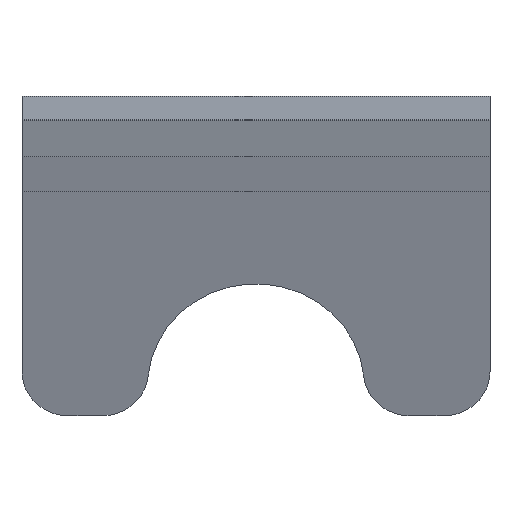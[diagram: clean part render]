
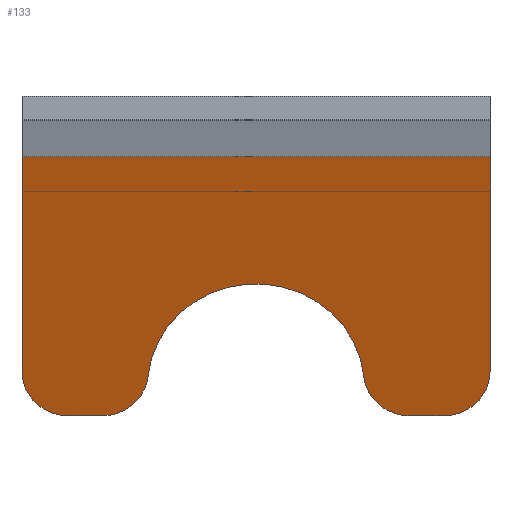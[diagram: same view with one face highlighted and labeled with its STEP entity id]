
A CAD part, front view. The second image highlights one B-rep face of the part: STEP entity #133.
In plain terms, the highlighted planar face has unit normal (0, -0.943, -0.334).
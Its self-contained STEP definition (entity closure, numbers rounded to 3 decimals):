
#17 = CARTESIAN_POINT ( 'NONE',  ( 3.398, -5.59, -7.637 ) ) ;
#25 = CIRCLE ( 'NONE', #42, 2. ) ;
#31 = FACE_OUTER_BOUND ( 'NONE', #569, .T. ) ;
#38 = CARTESIAN_POINT ( 'NONE',  ( 9.995, -5.375, -8.243 ) ) ;
#40 = CARTESIAN_POINT ( 'NONE',  ( 0., -5.59, -7.637 ) ) ;
#42 = AXIS2_PLACEMENT_3D ( 'NONE', #17, #481, #88 ) ;
#44 = CARTESIAN_POINT ( 'NONE',  ( 5.389, -5.525, -7.82 ) ) ;
#68 = LINE ( 'NONE', #542, #585 ) ;
#78 = ORIENTED_EDGE ( 'NONE', *, *, #682, .T. ) ;
#80 = VECTOR ( 'NONE', #732, 1000. ) ;
#88 = DIRECTION ( 'NONE',  ( 0., 0.334, -0.942 ) ) ;
#109 = DIRECTION ( 'NONE',  ( 0., 0.334, -0.942 ) ) ;
#124 = VERTEX_POINT ( 'NONE', #768 ) ;
#129 = VECTOR ( 'NONE', #373, 1000. ) ;
#132 = VERTEX_POINT ( 'NONE', #231 ) ;
#133 = ADVANCED_FACE ( 'NONE', ( #31 ), #706, .T. ) ;
#145 = CARTESIAN_POINT ( 'NONE',  ( 20., -5.59, -7.637 ) ) ;
#156 = ORIENTED_EDGE ( 'NONE', *, *, #863, .F. ) ;
#192 = CARTESIAN_POINT ( 'NONE',  ( 20., -8.848, 1.548 ) ) ;
#196 = VERTEX_POINT ( 'NONE', #40 ) ;
#197 = CARTESIAN_POINT ( 'NONE',  ( 20., -8.848, 1.548 ) ) ;
#200 = LINE ( 'NONE', #213, #537 ) ;
#210 = CARTESIAN_POINT ( 'NONE',  ( 18., -5.59, -7.637 ) ) ;
#213 = CARTESIAN_POINT ( 'NONE',  ( 20., -8.848, 1.548 ) ) ;
#231 = CARTESIAN_POINT ( 'NONE',  ( 2., -4.922, -9.522 ) ) ;
#247 = VERTEX_POINT ( 'NONE', #44 ) ;
#253 = VERTEX_POINT ( 'NONE', #440 ) ;
#256 = EDGE_CURVE ( 'NONE', #196, #253, #300, .T. ) ;
#259 = DIRECTION ( 'NONE',  ( -1., 0., 0. ) ) ;
#264 = CIRCLE ( 'NONE', #600, 2. ) ;
#266 = CARTESIAN_POINT ( 'NONE',  ( 16.592, -5.59, -7.637 ) ) ;
#269 = CARTESIAN_POINT ( 'NONE',  ( 2., -5.59, -7.637 ) ) ;
#280 = DIRECTION ( 'NONE',  ( 0., 0.334, -0.942 ) ) ;
#300 = LINE ( 'NONE', #851, #129 ) ;
#311 = ORIENTED_EDGE ( 'NONE', *, *, #727, .T. ) ;
#335 = DIRECTION ( 'NONE',  ( 0., 0.334, -0.942 ) ) ;
#338 = DIRECTION ( 'NONE',  ( 0., 0.334, -0.942 ) ) ;
#342 = DIRECTION ( 'NONE',  ( -1., 0., 0. ) ) ;
#366 = DIRECTION ( 'NONE',  ( 0., -0.942, -0.334 ) ) ;
#370 = AXIS2_PLACEMENT_3D ( 'NONE', #266, #744, #335 ) ;
#371 = ORIENTED_EDGE ( 'NONE', *, *, #421, .F. ) ;
#373 = DIRECTION ( 'NONE',  ( 0., -0.334, 0.942 ) ) ;
#390 = LINE ( 'NONE', #192, #595 ) ;
#393 = CARTESIAN_POINT ( 'NONE',  ( 3.398, -4.922, -9.522 ) ) ;
#411 = DIRECTION ( 'NONE',  ( 0., -0.334, 0.942 ) ) ;
#420 = ORIENTED_EDGE ( 'NONE', *, *, #256, .F. ) ;
#421 = EDGE_CURVE ( 'NONE', #124, #583, #778, .T. ) ;
#429 = VERTEX_POINT ( 'NONE', #393 ) ;
#440 = CARTESIAN_POINT ( 'NONE',  ( 0., -8.848, 1.548 ) ) ;
#443 = AXIS2_PLACEMENT_3D ( 'NONE', #38, #495, #109 ) ;
#454 = EDGE_CURVE ( 'NONE', #504, #253, #390, .T. ) ;
#458 = AXIS2_PLACEMENT_3D ( 'NONE', #269, #746, #338 ) ;
#474 = ORIENTED_EDGE ( 'NONE', *, *, #664, .T. ) ;
#481 = DIRECTION ( 'NONE',  ( 0., -0.942, -0.334 ) ) ;
#495 = DIRECTION ( 'NONE',  ( 0., -0.942, -0.334 ) ) ;
#504 = VERTEX_POINT ( 'NONE', #197 ) ;
#511 = ORIENTED_EDGE ( 'NONE', *, *, #454, .T. ) ;
#520 = EDGE_CURVE ( 'NONE', #672, #583, #687, .T. ) ;
#537 = VECTOR ( 'NONE', #411, 1000. ) ;
#542 = CARTESIAN_POINT ( 'NONE',  ( 20., -4.922, -9.522 ) ) ;
#544 = EDGE_CURVE ( 'NONE', #196, #132, #850, .T. ) ;
#569 = EDGE_LOOP ( 'NONE', ( #420, #814, #648, #311, #156, #710, #371, #474, #78, #511 ) ) ;
#583 = VERTEX_POINT ( 'NONE', #615 ) ;
#585 = VECTOR ( 'NONE', #342, 1000. ) ;
#595 = VECTOR ( 'NONE', #259, 1000. ) ;
#600 = AXIS2_PLACEMENT_3D ( 'NONE', #210, #683, #280 ) ;
#615 = CARTESIAN_POINT ( 'NONE',  ( 16.592, -4.922, -9.522 ) ) ;
#625 = VERTEX_POINT ( 'NONE', #145 ) ;
#642 = EDGE_CURVE ( 'NONE', #429, #132, #68, .T. ) ;
#647 = AXIS2_PLACEMENT_3D ( 'NONE', #780, #366, #845 ) ;
#648 = ORIENTED_EDGE ( 'NONE', *, *, #642, .F. ) ;
#664 = EDGE_CURVE ( 'NONE', #124, #625, #264, .T. ) ;
#672 = VERTEX_POINT ( 'NONE', #686 ) ;
#682 = EDGE_CURVE ( 'NONE', #625, #504, #200, .T. ) ;
#683 = DIRECTION ( 'NONE',  ( 0., -0.942, -0.334 ) ) ;
#686 = CARTESIAN_POINT ( 'NONE',  ( 14.601, -5.525, -7.82 ) ) ;
#687 = CIRCLE ( 'NONE', #370, 2. ) ;
#706 = PLANE ( 'NONE',  #647 ) ;
#710 = ORIENTED_EDGE ( 'NONE', *, *, #520, .T. ) ;
#722 = CIRCLE ( 'NONE', #443, 4.628 ) ;
#727 = EDGE_CURVE ( 'NONE', #429, #247, #25, .T. ) ;
#732 = DIRECTION ( 'NONE',  ( -1., 0., 0. ) ) ;
#744 = DIRECTION ( 'NONE',  ( 0., -0.942, -0.334 ) ) ;
#746 = DIRECTION ( 'NONE',  ( 0., -0.942, -0.334 ) ) ;
#768 = CARTESIAN_POINT ( 'NONE',  ( 18., -4.922, -9.522 ) ) ;
#778 = LINE ( 'NONE', #803, #80 ) ;
#780 = CARTESIAN_POINT ( 'NONE',  ( 20., -8.848, 1.548 ) ) ;
#803 = CARTESIAN_POINT ( 'NONE',  ( 20., -4.922, -9.522 ) ) ;
#814 = ORIENTED_EDGE ( 'NONE', *, *, #544, .T. ) ;
#845 = DIRECTION ( 'NONE',  ( 0., 0.334, -0.942 ) ) ;
#850 = CIRCLE ( 'NONE', #458, 2. ) ;
#851 = CARTESIAN_POINT ( 'NONE',  ( 0., -8.848, 1.548 ) ) ;
#863 = EDGE_CURVE ( 'NONE', #672, #247, #722, .T. ) ;
